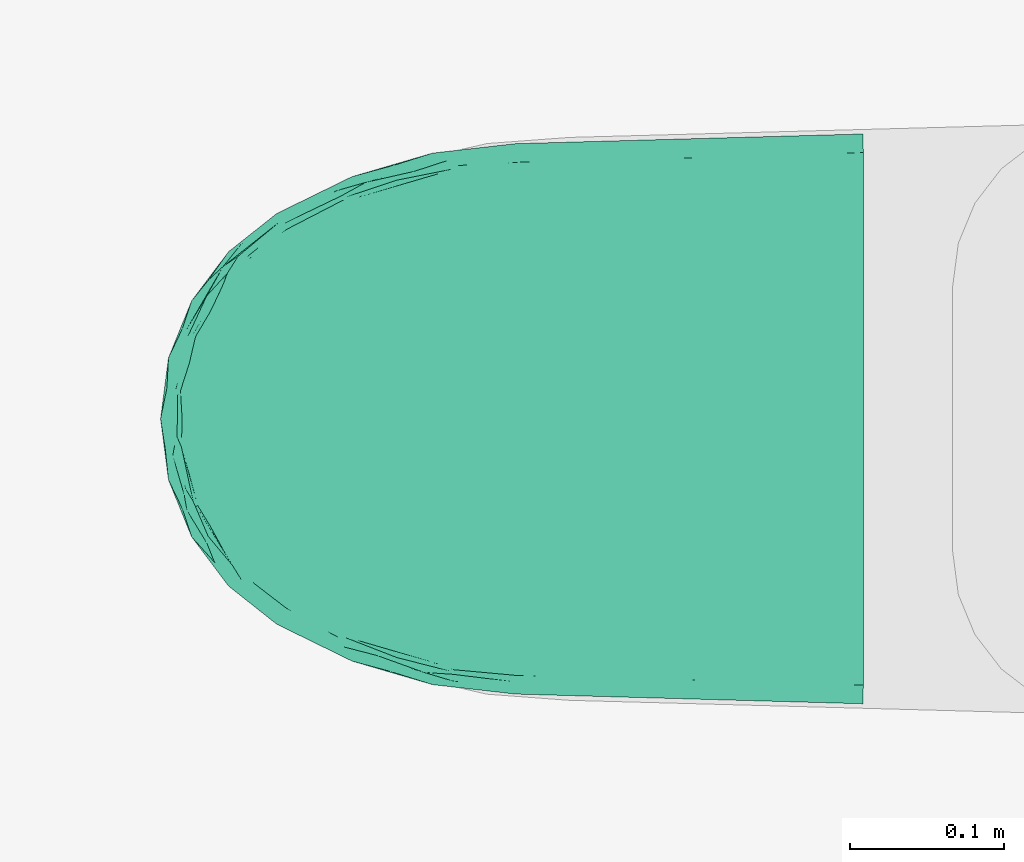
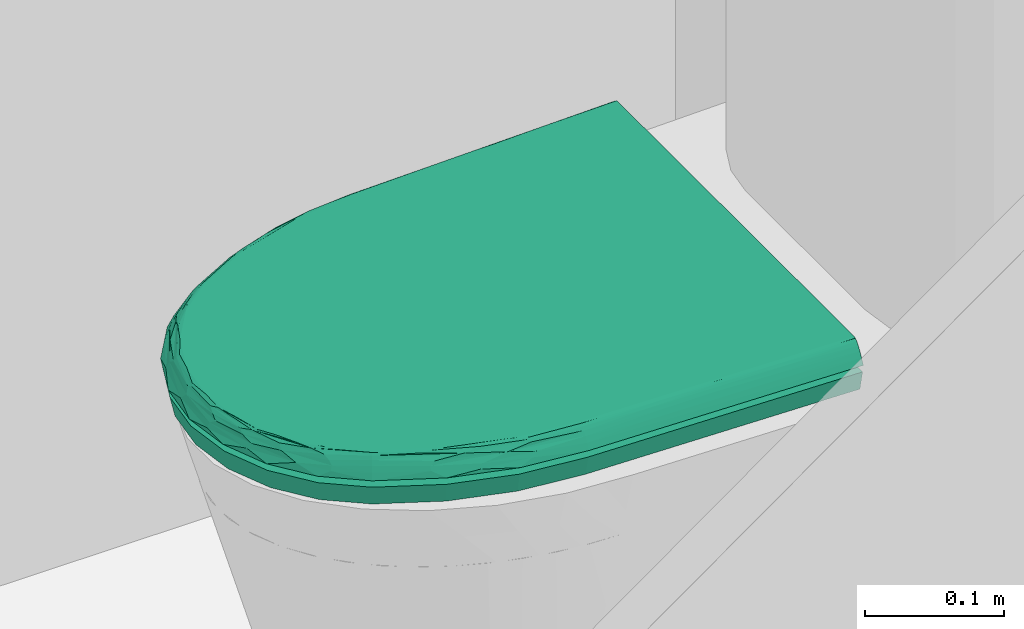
# One storey, part 64 of 75: 1 flow terminal.
"""IFC2X3 building model written with IfcOpenShell, lengths in metres."""

from ifc_helpers import new_model, entity, si_unit, converted_unit, derived_unit, direction, frame, origin, place, context, subcontext, project, spatial, faceted_brep, source, transform, mapped, material, type_object, type_shapes, element, save


model = new_model("IFC2X3")

# Units and contexts
model_context = context("Model", 3, precision=1e-05, world=origin(), true_north=direction((6.12303176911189e-17, 1.0)))
body_context = subcontext(model_context, "Body", "Model", "MODEL_VIEW")
ifc_project = project(units=[si_unit("LENGTHUNIT", "METRE"), si_unit("AREAUNIT", "SQUARE_METRE"), si_unit("VOLUMEUNIT", "CUBIC_METRE"), converted_unit("PLANEANGLEUNIT", "DEGREE", entity("IfcRatioMeasure", 0.0174532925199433), si_unit("PLANEANGLEUNIT", "RADIAN"), dimensions=[0, 0, 0, 0, 0, 0, 0]), si_unit("MASSUNIT", "GRAM", prefix="KILO"), derived_unit("MASSDENSITYUNIT", [(si_unit("MASSUNIT", "GRAM", prefix="KILO"), 1), (si_unit("LENGTHUNIT", "METRE"), -3)]), derived_unit("MOMENTOFINERTIAUNIT", [(si_unit("LENGTHUNIT", "METRE"), 4)]), si_unit("TIMEUNIT", "SECOND"), si_unit("FREQUENCYUNIT", "HERTZ"), si_unit("THERMODYNAMICTEMPERATUREUNIT", "DEGREE_CELSIUS"), derived_unit("THERMALTRANSMITTANCEUNIT", [(si_unit("MASSUNIT", "GRAM", prefix="KILO"), 1), (si_unit("THERMODYNAMICTEMPERATUREUNIT", "KELVIN"), -1), (si_unit("TIMEUNIT", "SECOND"), -3)]), derived_unit("VOLUMETRICFLOWRATEUNIT", [(si_unit("LENGTHUNIT", "METRE"), 3), (si_unit("TIMEUNIT", "SECOND"), -1)]), si_unit("ELECTRICCURRENTUNIT", "AMPERE"), si_unit("ELECTRICVOLTAGEUNIT", "VOLT"), si_unit("POWERUNIT", "WATT"), si_unit("FORCEUNIT", "NEWTON", prefix="KILO"), si_unit("ILLUMINANCEUNIT", "LUX"), si_unit("LUMINOUSFLUXUNIT", "LUMEN"), si_unit("LUMINOUSINTENSITYUNIT", "CANDELA"), derived_unit("USERDEFINED", [(si_unit("MASSUNIT", "GRAM", prefix="KILO"), -1), (si_unit("LENGTHUNIT", "METRE"), -2), (si_unit("TIMEUNIT", "SECOND"), 3), (si_unit("LUMINOUSFLUXUNIT", "LUMEN"), 1)]), derived_unit("LINEARVELOCITYUNIT", [(si_unit("LENGTHUNIT", "METRE"), 1), (si_unit("TIMEUNIT", "SECOND"), -1)]), si_unit("PRESSUREUNIT", "PASCAL"), derived_unit("USERDEFINED", [(si_unit("LENGTHUNIT", "METRE"), -2), (si_unit("MASSUNIT", "GRAM", prefix="KILO"), 1), (si_unit("TIMEUNIT", "SECOND"), -2)]), derived_unit("LINEARFORCEUNIT", [(si_unit("MASSUNIT", "GRAM", prefix="KILO"), 1), (si_unit("LENGTHUNIT", "METRE"), 1), (si_unit("TIMEUNIT", "SECOND"), -2), (si_unit("LENGTHUNIT", "METRE"), -1)]), derived_unit("PLANARFORCEUNIT", [(si_unit("MASSUNIT", "GRAM", prefix="KILO"), 1), (si_unit("LENGTHUNIT", "METRE"), 1), (si_unit("TIMEUNIT", "SECOND"), -2), (si_unit("LENGTHUNIT", "METRE"), -2)])], contexts=[model_context])

# Site, building, storey
site_placement = place(None, origin())
site = spatial("IfcSite", under=ifc_project, at=site_placement, Name="Superficie", CompositionType="ELEMENT")
building_placement = place(site_placement, origin())
building = spatial("IfcBuilding", under=site, at=building_placement, Name="Telegestiones", CompositionType="ELEMENT")
storey_placement = place(building_placement, origin())
storey = spatial("IfcBuildingStorey", under=building, at=storey_placement, Name="Nivel 0_NPT", CompositionType="ELEMENT", Elevation=0.0)

# Flow terminal
ifc_material = material(Name="Plastico - Ferrum - Urea - Blanco")
distribution_element_type = type_object("IfcDistributionElementType", Name="Inodoro-Ferrum-Marina-Tapa_y_Asiento:Tapa de Inodoro", material=ifc_material)
shared_shape = source(origin(), body_context, "Body", "Brep", [
    faceted_brep([(0.001595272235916, 0.456635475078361, 0.024059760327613), (0.00438804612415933, 0.456713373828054, 0.0292542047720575), (0.0069939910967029, 0.45678606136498, 0.0335042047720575), (0.00941310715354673, 0.456853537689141, 0.036809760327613), (0.0116453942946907, 0.456915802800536, 0.0391708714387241), (0.0136908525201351, 0.456972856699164, 0.0405875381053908), (0.0155494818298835, 0.457024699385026, 0.041059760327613), (0.0155494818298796, 0.457024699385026, 0.0240597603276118), (0.356866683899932, 0.457024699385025, 0.024059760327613), (0.356866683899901, 0.457024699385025, 0.041059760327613), (0.358725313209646, 0.456972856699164, 0.0405875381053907), (0.36077077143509, 0.456915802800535, 0.0391708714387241), (0.363003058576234, 0.456853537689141, 0.036809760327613), (0.365422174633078, 0.45678606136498, 0.0335042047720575), (0.368028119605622, 0.456713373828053, 0.0292542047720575), (0.370820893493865, 0.456635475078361, 0.024059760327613), (0.0165302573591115, 0.421862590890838, 0.041059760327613), (0.0178998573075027, 0.372760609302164, 0.041059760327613), (0.0198614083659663, 0.302436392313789, 0.041059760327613), (0.0218229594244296, 0.23211217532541, 0.0410597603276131), (0.027695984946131, 0.180536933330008, 0.0410597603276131), (0.0422596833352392, 0.130713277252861, 0.0410597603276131), (0.0650892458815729, 0.0840945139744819, 0.041059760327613), (0.0876065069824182, 0.055650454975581, 0.041059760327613), (0.116624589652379, 0.0338779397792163, 0.041059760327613), (0.150230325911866, 0.0202124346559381, 0.0410597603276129), (0.186208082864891, 0.0155549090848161, 0.0410597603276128), (0.222185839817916, 0.0202124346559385, 0.0410597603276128), (0.255791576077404, 0.0338779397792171, 0.0410597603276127), (0.284809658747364, 0.0556504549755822, 0.0410597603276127), (0.307326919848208, 0.0840945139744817, 0.0410597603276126), (0.330156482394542, 0.130713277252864, 0.0410597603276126), (0.34472018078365, 0.180536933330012, 0.0410597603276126), (0.350593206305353, 0.232112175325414, 0.0410597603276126), (0.351573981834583, 0.267274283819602, 0.041059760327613), (0.352943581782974, 0.316376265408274, 0.041059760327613), (0.354905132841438, 0.38670048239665, 0.041059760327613), (0.359621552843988, 0.29306195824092, 0.0352750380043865), (0.361625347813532, 0.274753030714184, 0.0314972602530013), (0.36307674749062, 0.326787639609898, 0.0314972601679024), (0.365222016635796, 0.403698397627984, 0.0314972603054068), (0.362298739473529, 0.389042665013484, 0.0352750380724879), (0.357834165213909, 0.389167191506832, 0.0399972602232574), (0.356913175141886, 0.410045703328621, 0.0408017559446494), (0.357025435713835, 0.344476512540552, 0.0396759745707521), (0.360402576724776, 0.404507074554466, 0.0381083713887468), (0.353536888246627, 0.291789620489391, 0.0408295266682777), (0.355341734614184, 0.299810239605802, 0.0399972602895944), (0.357035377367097, 0.283788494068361, 0.0381083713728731), (0.352451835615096, 0.232060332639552, 0.0405875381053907), (0.356729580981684, 0.231941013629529, 0.0368097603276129), (0.35449729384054, 0.232003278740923, 0.039170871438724), (0.365723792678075, 0.350304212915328, 0.028075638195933), (0.366508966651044, 0.302047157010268, 0.024059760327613), (0.368470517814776, 0.372371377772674, 0.024059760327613), (0.355332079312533, 0.348898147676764, 0.0407542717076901), (0.364180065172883, 0.300719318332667, 0.0283642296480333), (0.359148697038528, 0.231873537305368, 0.0335042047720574), (0.361754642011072, 0.231800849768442, 0.0292542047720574), (0.367244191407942, 0.398171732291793, 0.0277403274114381), (0.36964570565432, 0.414503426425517, 0.024059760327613), (0.360553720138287, 0.34106364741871, 0.0358205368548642), (0.358726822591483, 0.344429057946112, 0.0381083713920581), (0.364547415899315, 0.231722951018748, 0.024059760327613), (0.358404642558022, 0.177778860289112, 0.024059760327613), (0.34317203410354, 0.125666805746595, 0.024059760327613), (0.31929391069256, 0.076906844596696, 0.0240597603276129), (0.294551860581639, 0.0456524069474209, 0.0240597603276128), (0.262666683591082, 0.0217286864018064, 0.0240597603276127), (0.225740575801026, 0.00671297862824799, 0.0240597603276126), (0.18620808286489, 0.00159527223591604, 0.0240597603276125), (0.146675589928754, 0.00671297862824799, 0.0240597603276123), (0.109749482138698, 0.0217286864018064, 0.0240597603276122), (0.077864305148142, 0.0456524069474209, 0.0240597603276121), (0.0531222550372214, 0.0769068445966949, 0.024059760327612), (0.029244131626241, 0.125666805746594, 0.0240597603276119), (0.0140115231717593, 0.17777886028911, 0.0240597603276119), (0.00786874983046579, 0.231722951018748, 0.0240597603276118), (0.00669356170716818, 0.273855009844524, 0.024059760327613), (0.00551837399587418, 0.315987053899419, 0.024059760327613), (0.00355682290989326, 0.38631127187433, 0.024059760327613), (0.348766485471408, 0.19184404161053, 0.0405359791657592), (0.349863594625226, 0.189923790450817, 0.0396286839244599), (0.310675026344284, 0.0820835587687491, 0.039170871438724), (0.312589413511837, 0.0809337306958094, 0.0368097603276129), (0.339580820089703, 0.141992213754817, 0.0380822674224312), (0.316898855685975, 0.0783453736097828, 0.0292542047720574), (0.334448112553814, 0.116810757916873, 0.0324641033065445), (0.314664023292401, 0.0796876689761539, 0.0335042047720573), (0.351727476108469, 0.191045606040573, 0.0380922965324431), (0.350466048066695, 0.172235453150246, 0.035239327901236), (0.357674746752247, 0.188271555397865, 0.0289584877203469), (0.348361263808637, 0.152432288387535, 0.0307862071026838), (0.336324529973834, 0.116342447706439, 0.0292921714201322), (0.3340712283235, 0.120766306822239, 0.0352481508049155), (0.349702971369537, 0.149947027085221, 0.0272890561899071), (0.328370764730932, 0.122507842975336, 0.0407801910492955), (0.308920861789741, 0.0831371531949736, 0.0405875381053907), (0.340839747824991, 0.154630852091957, 0.0402739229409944), (0.326302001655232, 0.114016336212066, 0.039960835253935), (0.356097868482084, 0.191008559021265, 0.0323074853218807), (0.206137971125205, 0.00469480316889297, 0.0274750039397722), (0.0918736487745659, 0.0448195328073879, 0.0379312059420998), (0.0617411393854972, 0.0820835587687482, 0.0391708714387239), (0.0598267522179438, 0.0809337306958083, 0.0368097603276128), (0.271117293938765, 0.042209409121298, 0.0407977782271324), (0.242566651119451, 0.0257569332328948, 0.0407855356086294), (0.239485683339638, 0.0226589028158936, 0.0398351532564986), (0.281086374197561, 0.0481515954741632, 0.0399058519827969), (0.197949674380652, 0.0122613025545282, 0.0392893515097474), (0.20434819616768, 0.0150990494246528, 0.0407002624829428), (0.168067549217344, 0.0144776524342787, 0.0403940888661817), (0.170441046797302, 0.00822595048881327, 0.034090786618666), (0.166278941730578, 0.00570428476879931, 0.0292662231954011), (0.206136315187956, 0.00691960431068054, 0.0313090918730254), (0.127777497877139, 0.0157377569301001, 0.0287773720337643), (0.292755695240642, 0.0621048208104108, 0.0408263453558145), (0.0960686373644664, 0.043351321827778, 0.0393951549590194), (0.132914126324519, 0.0216644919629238, 0.0390716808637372), (0.101228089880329, 0.0411914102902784, 0.0403940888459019), (0.290126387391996, 0.0537118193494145, 0.0379796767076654), (0.279094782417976, 0.0365256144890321, 0.0300373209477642), (0.298002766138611, 0.0556782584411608, 0.0320683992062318), (0.294844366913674, 0.0552482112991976, 0.0351018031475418), (0.299417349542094, 0.0541811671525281, 0.0285967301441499), (0.127833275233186, 0.0186776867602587, 0.0332865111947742), (0.166466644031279, 0.0116486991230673, 0.037846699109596), (0.170334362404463, 0.0127334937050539, 0.0393546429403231), (0.244637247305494, 0.0158147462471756, 0.0289041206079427), (0.262322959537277, 0.0324450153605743, 0.0385687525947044), (0.0634953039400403, 0.0831371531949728, 0.0405875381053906), (0.0809354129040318, 0.0605511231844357, 0.0407924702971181), (0.0874076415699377, 0.0421879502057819, 0.0311281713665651), (0.0732843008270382, 0.0535465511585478, 0.0282099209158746), (0.0959605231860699, 0.0328608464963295, 0.0276535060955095), (0.0786474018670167, 0.0607623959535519, 0.0399426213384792), (0.132957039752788, 0.024235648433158, 0.0407002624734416), (0.0577521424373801, 0.0796876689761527, 0.0335042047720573), (0.0807690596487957, 0.0519072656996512, 0.0350760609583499), (0.132771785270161, 0.0192933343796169, 0.0366404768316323), (0.235685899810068, 0.0169871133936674, 0.0356307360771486), (0.266675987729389, 0.0315725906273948, 0.0348948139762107), (0.231657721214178, 0.0178496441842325, 0.038162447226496), (0.106545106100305, 0.0314888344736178, 0.035394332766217), (0.0555173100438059, 0.0783453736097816, 0.0292542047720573), (0.245448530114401, 0.0186226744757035, 0.0326873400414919), (0.204351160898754, 0.0105368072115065, 0.0368097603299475), (0.210021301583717, 0.00948524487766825, 0.0343542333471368), (0.0449403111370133, 0.119006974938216, 0.0405359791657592), (0.0429816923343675, 0.120034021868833, 0.0396286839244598), (0.0179188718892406, 0.232003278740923, 0.0391708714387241), (0.0156865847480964, 0.231941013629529, 0.036809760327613), (0.0258300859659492, 0.165957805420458, 0.0380822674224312), (0.0106615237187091, 0.231800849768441, 0.0292542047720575), (0.0165922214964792, 0.189939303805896, 0.0324641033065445), (0.0132674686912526, 0.231873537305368, 0.0335042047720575), (0.0420154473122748, 0.118084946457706, 0.0380922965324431), (0.0329472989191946, 0.134613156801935, 0.035239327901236), (0.0355103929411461, 0.117219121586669, 0.0289584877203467), (0.0240549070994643, 0.152432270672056, 0.0307862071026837), (0.0147589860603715, 0.189323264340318, 0.0292921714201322), (0.0190401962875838, 0.186809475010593, 0.0352481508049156), (0.0215858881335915, 0.153803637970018, 0.0272890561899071), (0.0247811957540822, 0.1884123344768, 0.0407801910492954), (0.019964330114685, 0.232060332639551, 0.0405875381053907), (0.0315764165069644, 0.154630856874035, 0.0402739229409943), (0.0219508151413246, 0.196681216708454, 0.039960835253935), (0.0383131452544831, 0.115762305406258, 0.0323074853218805), (0.00993267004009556, 0.395666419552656, 0.0352750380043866), (0.00691140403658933, 0.413835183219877, 0.0314972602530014), (0.00836280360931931, 0.361800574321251, 0.0314972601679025), (0.0170744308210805, 0.299810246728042, 0.0399972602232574), (0.0191578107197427, 0.279015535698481, 0.0408017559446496), (0.0153907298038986, 0.344476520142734, 0.0396759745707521), (0.0153650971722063, 0.284351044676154, 0.0381083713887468), (0.0159369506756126, 0.397275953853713, 0.0408295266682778), (0.0126098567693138, 0.299685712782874, 0.0352750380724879), (0.0145820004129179, 0.389167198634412, 0.0399972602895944), (0.0119978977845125, 0.40506962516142, 0.0381083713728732), (0.0070307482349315, 0.338173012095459, 0.0280756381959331), (0.0105080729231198, 0.284889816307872, 0.0314972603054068), (0.0173279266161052, 0.340156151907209, 0.0407542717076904), (0.00580808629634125, 0.387766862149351, 0.0283642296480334), (0.00818097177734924, 0.290295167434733, 0.027740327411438), (0.0116776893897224, 0.347687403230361, 0.0358205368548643), (0.0136893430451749, 0.344429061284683, 0.0381083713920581)], [[[0, 1, 2, 3, 4, 5, 6, 7]], [[8, 9, 10, 11, 12, 13, 14, 15]], [[6, 16, 17, 18, 19, 20, 21, 22, 23, 24, 25, 26, 27, 28, 29, 30, 31, 32, 33, 34, 35, 36, 9]], [[6, 9, 8, 7]], [[37, 38, 39]], [[40, 41, 39]], [[42, 10, 43]], [[44, 45, 42]], [[45, 12, 11]], [[34, 46, 35]], [[10, 9, 43]], [[13, 12, 41]], [[47, 48, 44]], [[46, 34, 49]], [[50, 37, 48]], [[49, 51, 47]], [[51, 50, 48]], [[52, 53, 54]], [[14, 13, 40]], [[55, 43, 36]], [[52, 56, 53]], [[11, 10, 42]], [[50, 57, 37]], [[42, 45, 11]], [[38, 57, 58]], [[38, 58, 56]], [[59, 60, 14]], [[46, 47, 55]], [[13, 41, 40]], [[37, 39, 61]], [[41, 45, 62]], [[63, 56, 58]], [[62, 61, 41]], [[54, 59, 52]], [[12, 45, 41]], [[44, 48, 62, 45]], [[51, 48, 47]], [[62, 48, 61]], [[57, 38, 37]], [[39, 38, 56]], [[52, 39, 56]], [[63, 53, 56]], [[52, 40, 39]], [[40, 52, 59]], [[59, 14, 40]], [[34, 33, 49]], [[15, 14, 60]], [[59, 54, 60]], [[35, 46, 55]], [[47, 46, 49]], [[35, 55, 36]], [[44, 42, 55]], [[47, 44, 55]], [[42, 43, 55]], [[36, 43, 9]], [[41, 61, 39]], [[37, 61, 48]], [[8, 15, 60, 54, 53, 63, 64, 65, 66, 67, 68, 69, 70, 71, 72, 73, 74, 75, 76, 77, 78, 79, 80, 0, 7]], [[81, 82, 49]], [[83, 84, 85]], [[32, 81, 33]], [[86, 87, 88]], [[89, 90, 50]], [[89, 82, 85]], [[58, 91, 63]], [[90, 89, 85]], [[92, 87, 93]], [[87, 94, 88]], [[90, 57, 50]], [[95, 91, 92]], [[51, 89, 50]], [[85, 94, 90]], [[32, 31, 96]], [[90, 87, 92]], [[30, 97, 96]], [[33, 81, 49]], [[81, 98, 82]], [[99, 98, 96]], [[91, 100, 92]], [[99, 85, 98]], [[87, 86, 93]], [[94, 87, 90]], [[91, 58, 100]], [[84, 88, 94]], [[66, 65, 93]], [[92, 93, 95]], [[82, 89, 51]], [[85, 84, 94]], [[85, 82, 98]], [[96, 31, 30]], [[32, 98, 81]], [[49, 82, 51]], [[66, 93, 86]], [[95, 93, 65]], [[65, 64, 95]], [[64, 63, 91]], [[64, 91, 95]], [[100, 58, 57]], [[57, 90, 100]], [[90, 92, 100]], [[99, 97, 83]], [[32, 96, 98]], [[97, 99, 96]], [[85, 99, 83]], [[69, 101, 70]], [[102, 103, 104]], [[105, 29, 28]], [[105, 106, 107]], [[105, 107, 108]], [[109, 110, 111]], [[111, 110, 26]], [[112, 113, 114]], [[71, 115, 72]], [[116, 30, 29]], [[117, 118, 119]], [[108, 83, 97]], [[84, 83, 120]], [[67, 121, 68]], [[122, 88, 123]], [[86, 124, 66]], [[26, 110, 27]], [[120, 83, 108]], [[113, 112, 125]], [[88, 122, 86]], [[126, 109, 127]], [[84, 123, 88]], [[128, 69, 68]], [[68, 121, 128]], [[111, 26, 25]], [[106, 110, 107]], [[70, 113, 71]], [[122, 124, 86]], [[108, 129, 120]], [[109, 107, 110]], [[22, 130, 131]], [[132, 133, 134]], [[117, 119, 135]], [[119, 136, 24]], [[24, 23, 119]], [[118, 111, 136]], [[105, 116, 29]], [[137, 138, 104]], [[115, 132, 134]], [[112, 126, 139]], [[138, 137, 132]], [[103, 135, 130]], [[115, 71, 113]], [[101, 113, 70]], [[74, 73, 133]], [[140, 141, 129]], [[142, 140, 129]], [[143, 125, 139]], [[144, 133, 137]], [[138, 143, 102]], [[133, 132, 137]], [[25, 24, 136]], [[141, 140, 145]], [[130, 135, 131]], [[127, 118, 126]], [[109, 146, 142]], [[118, 136, 119]], [[111, 25, 136]], [[143, 132, 125]], [[102, 104, 138]], [[129, 108, 107]], [[123, 120, 141]], [[145, 121, 141]], [[101, 128, 114]], [[147, 112, 114]], [[126, 146, 109]], [[113, 125, 115]], [[132, 115, 125]], [[139, 126, 118]], [[112, 146, 126]], [[120, 123, 84]], [[122, 141, 121]], [[102, 139, 118]], [[112, 139, 125]], [[105, 28, 106]], [[116, 108, 97]], [[28, 27, 106]], [[110, 106, 27]], [[142, 129, 107]], [[141, 120, 129]], [[109, 142, 107]], [[142, 146, 140]], [[146, 147, 140]], [[145, 114, 128]], [[145, 140, 147]], [[121, 145, 128]], [[108, 116, 105]], [[30, 116, 97]], [[102, 135, 103]], [[131, 119, 23]], [[119, 131, 135]], [[22, 131, 23]], [[141, 122, 123]], [[122, 121, 124]], [[121, 67, 124]], [[66, 124, 67]], [[102, 143, 139]], [[132, 143, 138]], [[112, 147, 146]], [[145, 147, 114]], [[135, 102, 117]], [[118, 117, 102]], [[128, 101, 69]], [[113, 101, 114]], [[74, 133, 144]], [[134, 73, 72]], [[73, 134, 133]], [[115, 134, 72]], [[109, 111, 127]], [[118, 127, 111]], [[148, 149, 130]], [[150, 151, 152]], [[21, 148, 22]], [[153, 154, 155]], [[156, 157, 104]], [[156, 149, 152]], [[144, 158, 74]], [[157, 156, 152]], [[159, 154, 160]], [[154, 161, 155]], [[157, 137, 104]], [[162, 158, 159]], [[103, 156, 104]], [[152, 161, 157]], [[21, 20, 163]], [[157, 154, 159]], [[19, 164, 163]], [[22, 148, 130]], [[148, 165, 149]], [[166, 165, 163]], [[158, 167, 159]], [[166, 152, 165]], [[154, 153, 160]], [[161, 154, 157]], [[158, 144, 167]], [[151, 155, 161]], [[77, 76, 160]], [[159, 160, 162]], [[149, 156, 103]], [[152, 151, 161]], [[152, 149, 165]], [[163, 20, 19]], [[21, 165, 148]], [[130, 149, 103]], [[77, 160, 153]], [[162, 160, 76]], [[76, 75, 162]], [[75, 74, 158]], [[75, 158, 162]], [[167, 144, 137]], [[137, 157, 167]], [[157, 159, 167]], [[166, 164, 150]], [[21, 163, 165]], [[164, 166, 163]], [[152, 166, 150]], [[168, 169, 170]], [[171, 164, 172]], [[173, 174, 171]], [[174, 151, 150]], [[16, 175, 17]], [[164, 19, 172]], [[155, 151, 176]], [[177, 178, 173]], [[175, 16, 5]], [[3, 168, 178]], [[5, 4, 177]], [[4, 3, 178]], [[179, 80, 79]], [[153, 155, 180]], [[181, 172, 18]], [[179, 182, 80]], [[150, 164, 171]], [[3, 2, 168]], [[171, 174, 150]], [[169, 2, 1]], [[169, 1, 182]], [[183, 78, 153]], [[175, 177, 181]], [[155, 176, 180]], [[168, 170, 184]], [[176, 174, 185]], [[0, 182, 1]], [[185, 184, 176]], [[79, 183, 179]], [[180, 176, 170]], [[151, 174, 176]], [[173, 178, 185, 174]], [[4, 178, 177]], [[185, 178, 184]], [[2, 169, 168]], [[170, 169, 182]], [[179, 170, 182]], [[0, 80, 182]], [[179, 180, 170]], [[180, 179, 183]], [[183, 153, 180]], [[16, 6, 5]], [[77, 153, 78]], [[183, 79, 78]], [[17, 175, 181]], [[177, 175, 5]], [[17, 181, 18]], [[173, 171, 181]], [[177, 173, 181]], [[171, 172, 181]], [[18, 172, 19]], [[176, 184, 170]], [[168, 184, 178]]]),
    faceted_brep([(0.356866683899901, 0.457024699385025, 0.017550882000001), (0.369571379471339, 0.456670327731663, 0.0175508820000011), (0.365620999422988, 0.456780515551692, 0.0), (0.356866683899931, 0.457024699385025, 0.0), (0.0155494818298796, 0.457024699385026, 0.0175508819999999), (0.00284478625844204, 0.456670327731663, 0.0175508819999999), (0.00911826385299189, 0.231757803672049, 0.0175508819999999), (0.0152368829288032, 0.178025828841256, 0.0175508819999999), (0.0304095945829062, 0.126118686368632, 0.017550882), (0.0541938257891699, 0.0775504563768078, 0.0175508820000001), (0.0787366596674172, 0.0465476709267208, 0.0175508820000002), (0.110365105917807, 0.0228165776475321, 0.0175508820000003), (0.146993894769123, 0.00792177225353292, 0.0175508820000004), (0.18620808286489, 0.00284527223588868, 0.0175508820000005), (0.225422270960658, 0.00792177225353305, 0.0175508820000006), (0.262051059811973, 0.0228165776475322, 0.0175508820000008), (0.293679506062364, 0.0465476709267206, 0.0175508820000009), (0.31822233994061, 0.0775504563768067, 0.017550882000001), (0.342006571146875, 0.126118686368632, 0.017550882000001), (0.357179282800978, 0.178025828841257, 0.0175508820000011), (0.363297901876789, 0.231757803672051, 0.0175508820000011), (0.359347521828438, 0.231867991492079, 0.0), (0.353305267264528, 0.178806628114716, 0.0), (0.338321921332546, 0.127547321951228, 0.0), (0.314834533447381, 0.0795852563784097, 0.0), (0.290921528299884, 0.0493780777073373, 0.0), (0.260104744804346, 0.0262559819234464, 0.0), (0.224415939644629, 0.0117434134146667, 0.0), (0.18620808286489, 0.00679718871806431, 0.0), (0.148000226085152, 0.0117434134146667, 0.0), (0.112311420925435, 0.0262559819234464, 0.0), (0.0814946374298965, 0.0493780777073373, 0.0), (0.0575816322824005, 0.0795852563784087, 0.0), (0.0340942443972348, 0.127547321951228, 0.0), (0.0191108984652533, 0.178806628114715, 0.0), (0.0130686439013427, 0.23186799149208, 0.0), (0.00679516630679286, 0.456780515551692, 0.0), (0.0155494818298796, 0.457024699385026, 0.0)], [[[0, 1, 2, 3]], [[4, 5, 6, 7, 8, 9, 10, 11, 12, 13, 14, 15, 16, 17, 18, 19, 20, 1, 0]], [[2, 1, 20, 21]], [[3, 2, 21, 22, 23, 24, 25, 26, 27, 28, 29, 30, 31, 32, 33, 34, 35, 36, 37]], [[20, 19, 22, 21]], [[19, 18, 23, 22]], [[18, 17, 24, 23]], [[24, 17, 16, 25]], [[16, 15, 26, 25]], [[14, 27, 26, 15]], [[27, 14, 13, 28]], [[12, 11, 30, 29]], [[11, 10, 31, 30]], [[32, 31, 10, 9]], [[28, 13, 12, 29]], [[9, 8, 33, 32]], [[8, 7, 34, 33]], [[7, 6, 35, 34]], [[37, 36, 5, 4]], [[35, 6, 5, 36]], [[3, 37, 4, 0]]]),
])
type_shapes(distribution_element_type, [shared_shape])
flow_terminal_placement = place(storey_placement, frame((4.65842239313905, -2.46668468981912, 0.444820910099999), z_axis=(0.0, 0.0, 1.0), x_axis=(0.0, -1.0, 0.0)))
element("IfcFlowTerminal", 1, at=flow_terminal_placement, inside=storey, type_object=distribution_element_type, material=ifc_material, Name="Inodoro-Ferrum-Marina-Tapa_y_Asiento:Tapa de Inodoro", ObjectType="Inodoro-Ferrum-Marina-Tapa_y_Asiento:Tapa de Inodoro", context=body_context, shape_type="MappedRepresentation", body=[
    mapped(shared_shape, transform((0.0, 0.0, 0.0), scale=1.0)),
])

save(model, "model.ifc")
